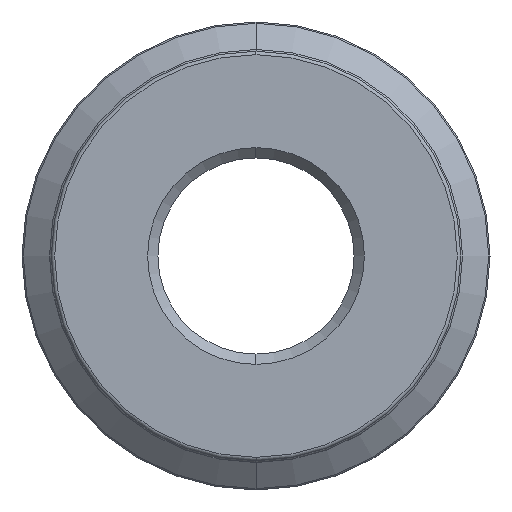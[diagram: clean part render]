
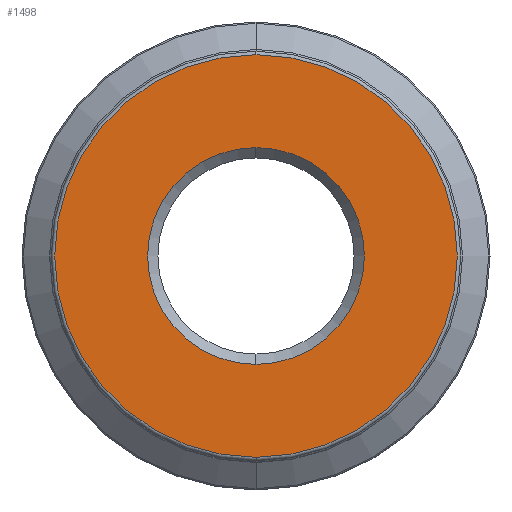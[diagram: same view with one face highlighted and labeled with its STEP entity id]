
A CAD part, left-side view. The second image highlights one B-rep face of the part: STEP entity #1498.
In plain terms, the highlighted planar face has unit normal (-1, 0, 0).
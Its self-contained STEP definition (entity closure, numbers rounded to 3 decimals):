
#375=CARTESIAN_POINT('',(-12.509,0.,0.));
#376=DIRECTION('',(1.,0.,0.));
#377=DIRECTION('',(0.,0.,1.));
#378=AXIS2_PLACEMENT_3D('',#375,#376,#377);
#380=CARTESIAN_POINT('',(-12.509,0.,0.));
#381=DIRECTION('',(1.,0.,0.));
#382=DIRECTION('',(0.,0.,-1.));
#383=AXIS2_PLACEMENT_3D('',#380,#381,#382);
#385=CARTESIAN_POINT('',(-12.509,0.,0.));
#386=DIRECTION('',(1.,0.,0.));
#387=DIRECTION('',(0.,0.,1.));
#388=AXIS2_PLACEMENT_3D('',#385,#386,#387);
#390=CARTESIAN_POINT('',(-12.509,0.,0.));
#391=DIRECTION('',(1.,0.,0.));
#392=DIRECTION('',(0.,0.,-1.));
#393=AXIS2_PLACEMENT_3D('',#390,#391,#392);
#813=CARTESIAN_POINT('',(-12.509,0.,5.85));
#814=CARTESIAN_POINT('',(-12.509,0.,-5.85));
#815=VERTEX_POINT('',#813);
#816=VERTEX_POINT('',#814);
#849=CARTESIAN_POINT('',(-12.509,0.,3.15));
#850=CARTESIAN_POINT('',(-12.509,0.,-3.15));
#851=VERTEX_POINT('',#849);
#852=VERTEX_POINT('',#850);
#1483=CARTESIAN_POINT('',(-12.509,0.,0.));
#1484=DIRECTION('',(-1.,0.,0.));
#1485=DIRECTION('',(0.,0.,-1.));
#1486=AXIS2_PLACEMENT_3D('',#1483,#1484,#1485);
#1487=PLANE('',#1486);
#1488=ORIENTED_EDGE('',*,*,#1463,.T.);
#1489=ORIENTED_EDGE('',*,*,#1477,.T.);
#1490=EDGE_LOOP('',(#1488,#1489));
#1491=FACE_OUTER_BOUND('',#1490,.F.);
#1493=ORIENTED_EDGE('',*,*,#1492,.F.);
#1495=ORIENTED_EDGE('',*,*,#1494,.F.);
#1496=EDGE_LOOP('',(#1493,#1495));
#1497=FACE_BOUND('',#1496,.F.);
#1498=ADVANCED_FACE('',(#1491,#1497),#1487,.T.);
#379=CIRCLE('',#378,5.85);
#384=CIRCLE('',#383,5.85);
#389=CIRCLE('',#388,3.15);
#394=CIRCLE('',#393,3.15);
#1463=EDGE_CURVE('',#815,#816,#379,.T.);
#1477=EDGE_CURVE('',#816,#815,#384,.T.);
#1492=EDGE_CURVE('',#851,#852,#389,.T.);
#1494=EDGE_CURVE('',#852,#851,#394,.T.);
